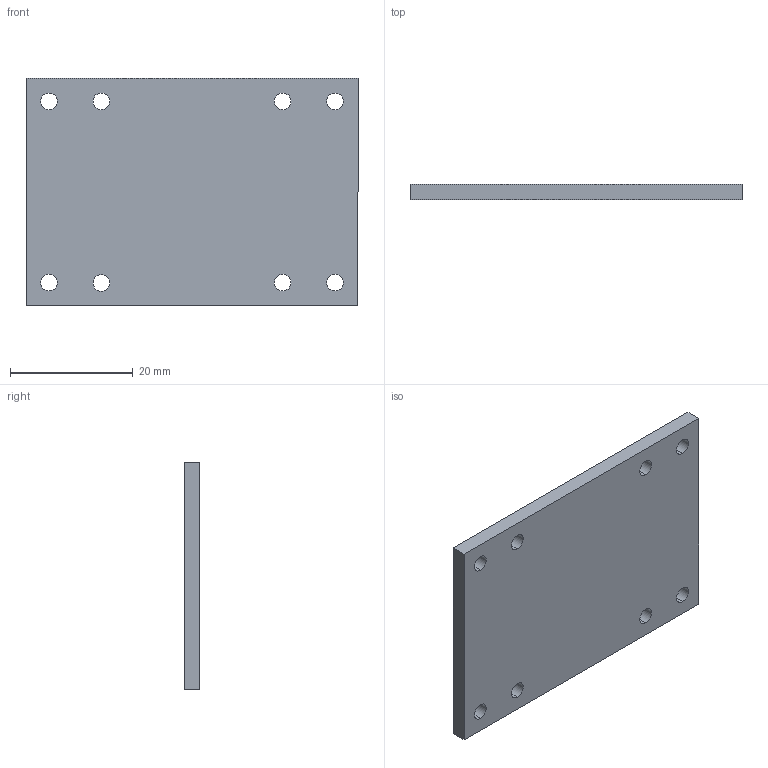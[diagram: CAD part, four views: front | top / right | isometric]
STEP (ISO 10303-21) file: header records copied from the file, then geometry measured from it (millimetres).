
FILE_DESCRIPTION (( 'STEP AP203' ), '1' );
FILE_NAME ('Gimbal Yaw Plate (4 clamps RTU) v1.STEP', '2016-10-20T20:49:18', ( 'drhyoo' ), ( '' ), 'SwSTEP 2.0', 'SolidWorks 2016', '' );
FILE_SCHEMA (( 'CONFIG_CONTROL_DESIGN' ));
Length unit declared in the file: millimetre
Products named in the file (1): Gimbal Yaw Plate (4 clamps RTU) v1
Bounding box: 54 x 2.5 x 37 mm (x, y, z)
Volume: 4880.5 mm3; surface area: 4529 mm2
Topology: 1 solids, 1 shells, 22 faces, 60 edges, 40 vertices
Faces by surface type: cylinder 16, plane 6
Entity records: 825 total; most frequent: DIRECTION 138, CARTESIAN_POINT 123, ORIENTED_EDGE 120, EDGE_CURVE 60, AXIS2_PLACEMENT_3D 55, VERTEX_POINT 40, EDGE_LOOP 38, CIRCLE 32
